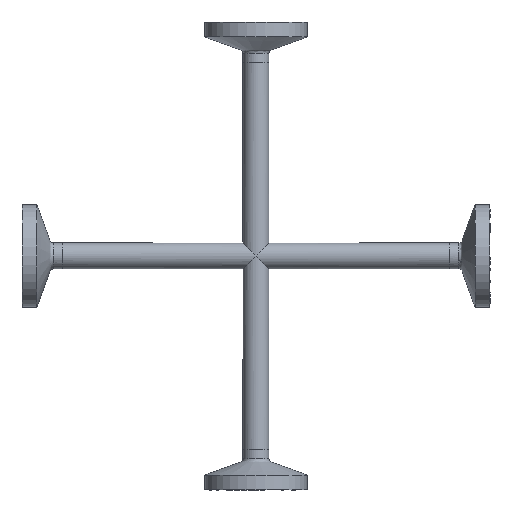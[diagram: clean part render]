
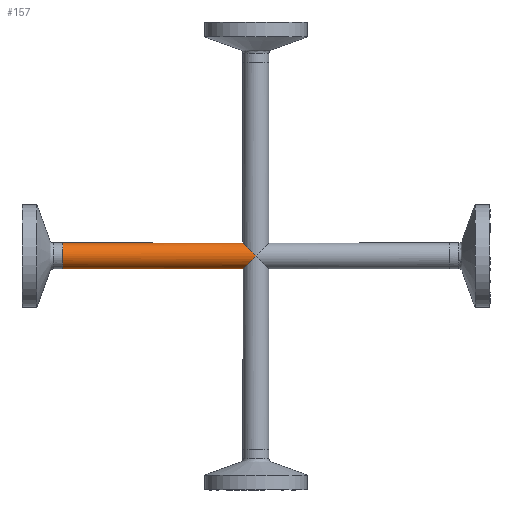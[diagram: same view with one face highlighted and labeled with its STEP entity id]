
A CAD part, front view. The second image highlights one B-rep face of the part: STEP entity #157.
In plain terms, the highlighted cylindrical face has radius 3.175 mm (diameter 6.35 mm), a partial arc.
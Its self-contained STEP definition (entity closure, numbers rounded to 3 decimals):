
#44 = CARTESIAN_POINT ( 'NONE',  ( -47.15, 0., 0. ) ) ;
#57 = CIRCLE ( 'NONE', #2122, 3.175 ) ;
#154 = CARTESIAN_POINT ( 'NONE',  ( -47.15, 0., -3.175 ) ) ;
#157 = ADVANCED_FACE ( 'NONE', ( #485 ), #1135, .T. ) ;
#224 = EDGE_LOOP ( 'NONE', ( #423, #3271, #899, #2067, #389 ) ) ;
#389 = ORIENTED_EDGE ( 'NONE', *, *, #2817, .T. ) ;
#392 = CARTESIAN_POINT ( 'NONE',  ( 0., -3.175, 0. ) ) ;
#412 = CARTESIAN_POINT ( 'NONE',  ( 0., -3.175, 0. ) ) ;
#423 = ORIENTED_EDGE ( 'NONE', *, *, #506, .F. ) ;
#485 = FACE_OUTER_BOUND ( 'NONE', #224, .T. ) ;
#506 = EDGE_CURVE ( 'NONE', #2662, #1213, #762, .T. ) ;
#525 = VECTOR ( 'NONE', #3207, 1000. ) ;
#579 = DIRECTION ( 'NONE',  ( 0., 0., -1. ) ) ;
#602 = EDGE_CURVE ( 'NONE', #2662, #3047, #57, .T. ) ;
#762 = LINE ( 'NONE', #2946, #2628 ) ;
#825 = DIRECTION ( 'NONE',  ( 1., 0., 0. ) ) ;
#829 = CARTESIAN_POINT ( 'NONE',  ( -47.15, 0., -3.175 ) ) ;
#899 = ORIENTED_EDGE ( 'NONE', *, *, #1252, .T. ) ;
#938 = CARTESIAN_POINT ( 'NONE',  ( -3.175, 0., -3.175 ) ) ;
#973 = CARTESIAN_POINT ( 'NONE',  ( -1.86, -3.175, 1.86 ) ) ;
#1078 = DIRECTION ( 'NONE',  ( 1., 0., 0. ) ) ;
#1135 = CYLINDRICAL_SURFACE ( 'NONE', #1712, 3.175 ) ;
#1200 = CARTESIAN_POINT ( 'NONE',  ( -1.86, -3.175, -1.86 ) ) ;
#1213 = VERTEX_POINT ( 'NONE', #3495 ) ;
#1252 = EDGE_CURVE ( 'NONE', #3047, #2585, #2651, .T. ) ;
#1258 = CARTESIAN_POINT ( 'NONE',  ( -3.175, 0., 3.175 ) ) ;
#1712 = AXIS2_PLACEMENT_3D ( 'NONE', #3518, #2131, #3327 ) ;
#1839 = CARTESIAN_POINT ( 'NONE',  ( -47.15, 0., 3.175 ) ) ;
#2067 = ORIENTED_EDGE ( 'NONE', *, *, #2542, .F. ) ;
#2122 = AXIS2_PLACEMENT_3D ( 'NONE', #44, #1078, #579 ) ;
#2131 = DIRECTION ( 'NONE',  ( 1., 0., 0. ) ) ;
#2431 =( BOUNDED_CURVE ( )  B_SPLINE_CURVE ( 3, ( #392, #1200, #2619, #938 ),
 .UNSPECIFIED., .F., .F. ) 
 B_SPLINE_CURVE_WITH_KNOTS ( ( 4, 4 ),
 ( 1.571, 3.142 ),
 .UNSPECIFIED. ) 
 CURVE ( )  GEOMETRIC_REPRESENTATION_ITEM ( )  RATIONAL_B_SPLINE_CURVE ( ( 1., 0.805, 0.805, 1. ) ) 
 REPRESENTATION_ITEM ( '' )  );
#2489 = CARTESIAN_POINT ( 'NONE',  ( 0., -3.175, 0. ) ) ;
#2542 = EDGE_CURVE ( 'NONE', #3024, #2585, #2431, .T. ) ;
#2585 = VERTEX_POINT ( 'NONE', #2926 ) ;
#2619 = CARTESIAN_POINT ( 'NONE',  ( -3.175, -1.86, -3.175 ) ) ;
#2628 = VECTOR ( 'NONE', #825, 1000. ) ;
#2651 = LINE ( 'NONE', #154, #525 ) ;
#2662 = VERTEX_POINT ( 'NONE', #1839 ) ;
#2817 = EDGE_CURVE ( 'NONE', #3024, #1213, #2951, .T. ) ;
#2926 = CARTESIAN_POINT ( 'NONE',  ( -3.175, 0., -3.175 ) ) ;
#2929 = CARTESIAN_POINT ( 'NONE',  ( -3.175, -1.86, 3.175 ) ) ;
#2946 = CARTESIAN_POINT ( 'NONE',  ( -47.15, 0., 3.175 ) ) ;
#2951 =( BOUNDED_CURVE ( )  B_SPLINE_CURVE ( 3, ( #412, #973, #2929, #1258 ),
 .UNSPECIFIED., .F., .F. ) 
 B_SPLINE_CURVE_WITH_KNOTS ( ( 4, 4 ),
 ( 1.571, 3.142 ),
 .UNSPECIFIED. ) 
 CURVE ( )  GEOMETRIC_REPRESENTATION_ITEM ( )  RATIONAL_B_SPLINE_CURVE ( ( 1., 0.805, 0.805, 1. ) ) 
 REPRESENTATION_ITEM ( '' )  );
#3024 = VERTEX_POINT ( 'NONE', #2489 ) ;
#3047 = VERTEX_POINT ( 'NONE', #829 ) ;
#3207 = DIRECTION ( 'NONE',  ( 1., 0., 0. ) ) ;
#3271 = ORIENTED_EDGE ( 'NONE', *, *, #602, .T. ) ;
#3327 = DIRECTION ( 'NONE',  ( 0., 0., -1. ) ) ;
#3495 = CARTESIAN_POINT ( 'NONE',  ( -3.175, 0., 3.175 ) ) ;
#3518 = CARTESIAN_POINT ( 'NONE',  ( -47.15, 0., 0. ) ) ;
